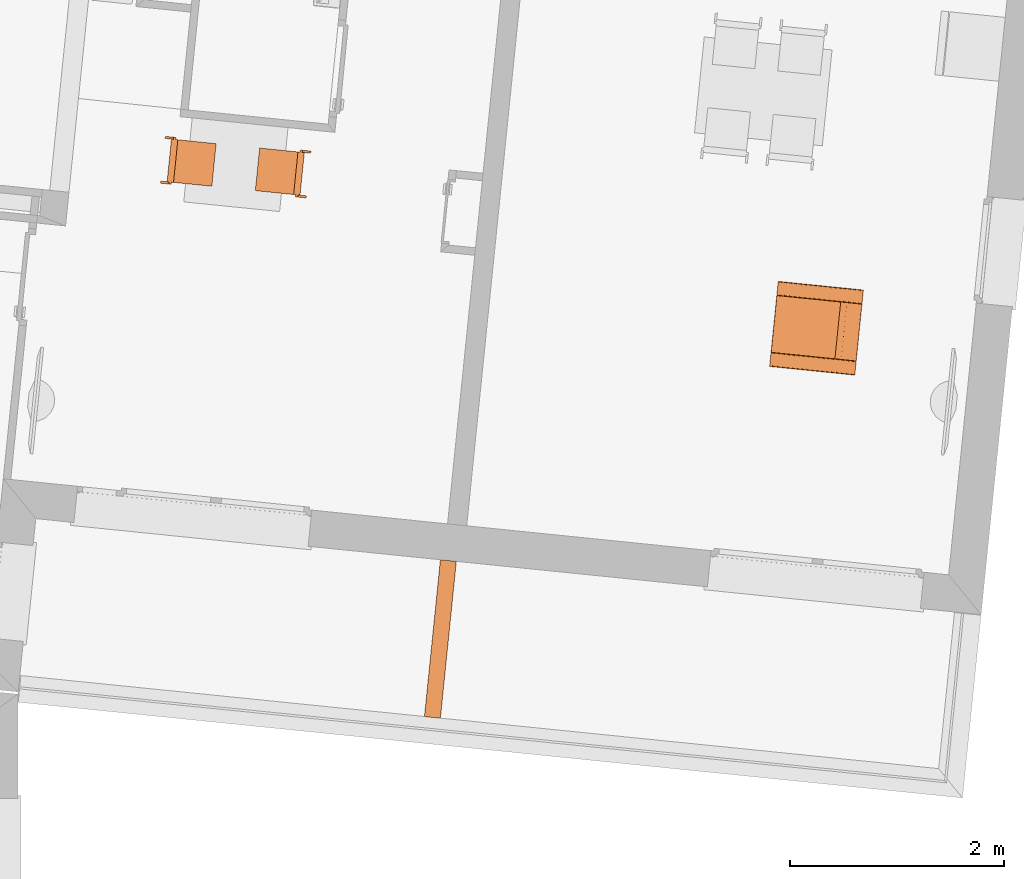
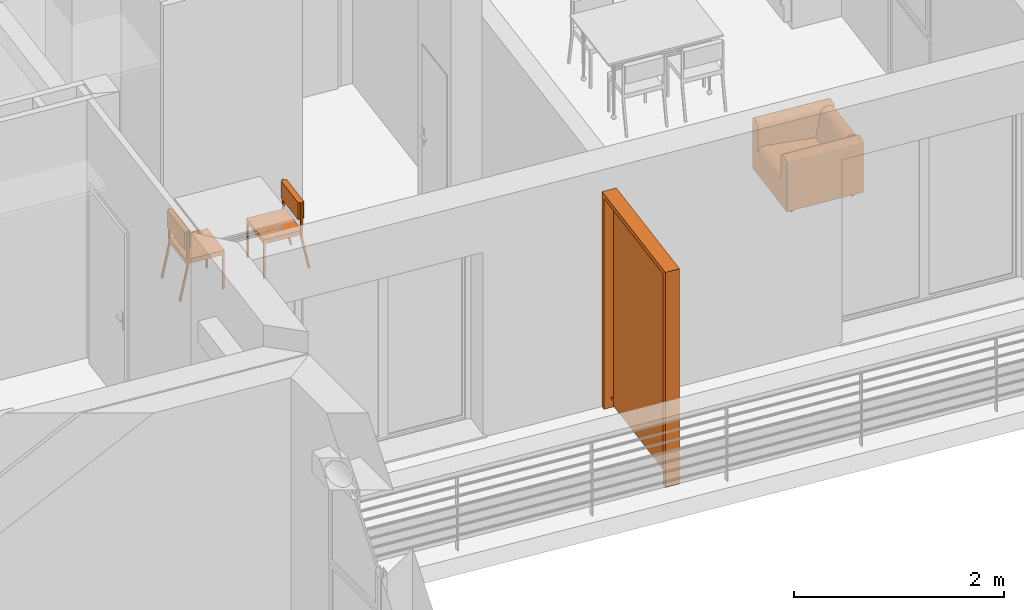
# One storey, part 155 of 164: 4 proxies.
"""IFC2X3 building model written with IfcOpenShell, lengths in millimetres."""

from ifc_helpers import new_model, entity, si_unit, converted_unit, derived_unit, money_unit, direction, frame, origin_with_axes, place, context, subcontext, project, spatial, open_shell, faceted_brep, surface_model, source, transform, mapped, type_object, element, save


model = new_model("IFC2X3")

# Units and contexts
model_context = context("Model", 3, precision=0.01, world=origin_with_axes(), true_north=direction((0.0, 1.0)))
body_context = subcontext(model_context, "Body", "Model", "MODEL_VIEW")
ifc_project = project(units=[si_unit("LENGTHUNIT", "METRE", prefix="MILLI"), si_unit("AREAUNIT", "SQUARE_METRE"), si_unit("VOLUMEUNIT", "CUBIC_METRE"), converted_unit("PLANEANGLEUNIT", "DEGREE", entity("IfcPlaneAngleMeasure", 0.0174532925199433), si_unit("PLANEANGLEUNIT", "RADIAN"), dimensions=[0, 0, 0, 0, 0, 0, 0]), money_unit("USD"), converted_unit("TIMEUNIT", "Year", entity("IfcTimeMeasure", 31557600.0), si_unit("TIMEUNIT", "SECOND"), dimensions=[0, 0, 1, 0, 0, 0, 0]), si_unit("MASSUNIT", "GRAM", prefix="KILO"), si_unit("THERMODYNAMICTEMPERATUREUNIT", "DEGREE_CELSIUS"), si_unit("LUMINOUSINTENSITYUNIT", "LUMEN"), si_unit("ENERGYUNIT", "JOULE", prefix="MEGA"), derived_unit("THERMALCONDUCTANCEUNIT", [(si_unit("POWERUNIT", "WATT"), 1), (si_unit("LENGTHUNIT", "METRE"), -1), (si_unit("THERMODYNAMICTEMPERATUREUNIT", "KELVIN"), -1)]), derived_unit("SPECIFICHEATCAPACITYUNIT", [(si_unit("ENERGYUNIT", "JOULE"), 1), (si_unit("MASSUNIT", "GRAM", prefix="KILO"), -1), (si_unit("THERMODYNAMICTEMPERATUREUNIT", "KELVIN"), -1)]), derived_unit("MASSDENSITYUNIT", [(si_unit("MASSUNIT", "GRAM", prefix="KILO"), 1), (si_unit("VOLUMEUNIT", "CUBIC_METRE"), -1)])], contexts=[model_context])

# Site, building, storey
site_placement = place(None, origin_with_axes())
site = spatial("IfcSite", under=ifc_project, at=site_placement, Name="Site", CompositionType="ELEMENT")
building_placement = place(site_placement, origin_with_axes())
building = spatial("IfcBuilding", under=site, at=building_placement, Name="Bâtiment", CompositionType="ELEMENT")
storey_placement = place(building_placement, frame((0.0, 0.0, 5750.0), z_axis=(0.0, 0.0, 1.0), x_axis=(1.0, 0.0, 0.0)))
storey = spatial("IfcBuildingStorey", under=building, at=storey_placement, Name="Etage1", CompositionType="ELEMENT", Elevation=5750.0)

# Proxies
building_element_proxy_type = type_object("IfcBuildingElementProxyType", PredefinedType="NOTDEFINED")
shared_shape_1 = source(origin_with_axes(), body_context, "Body", "Brep", [
    faceted_brep([(39.99999978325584, 0.0, 0.0), (19.99999989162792, 0.0, 0.0), (19.99999989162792, 19.99999936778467, 0.0), (39.99999978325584, 19.99999936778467, 0.0), (39.99999978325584, 0.0, 400.0), (19.99999989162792, 0.0, 400.0), (19.99999989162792, 19.99999936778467, 400.0), (39.99999978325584, 19.99999936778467, 400.0)], [[[0, 1, 2, 3]], [[1, 0, 4, 5]], [[2, 1, 5, 6]], [[3, 2, 6, 7]], [[0, 3, 7, 4]], [[5, 4, 7, 6]]]),
    faceted_brep([(419.9999977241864, 0.0, 0.0), (399.9999978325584, 0.0, 0.0), (399.9999978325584, 19.99999936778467, 0.0), (419.9999977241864, 19.99999936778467, 0.0), (419.9999977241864, 0.0, 400.0), (399.9999978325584, 0.0, 400.0), (399.9999978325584, 19.99999936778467, 400.0), (419.9999977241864, 19.99999936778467, 400.0)], [[[0, 1, 2, 3]], [[1, 0, 4, 5]], [[2, 1, 5, 6]], [[3, 2, 6, 7]], [[0, 3, 7, 4]], [[5, 4, 7, 6]]]),
    faceted_brep([(399.9999978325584, 0.0, 400.0000000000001), (39.99999978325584, 0.0, 400.0000000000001), (39.99999978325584, 19.99999936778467, 400.0000000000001), (399.9999978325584, 19.99999936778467, 400.0000000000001), (399.9999978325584, 0.0, 420.0000000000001), (39.99999978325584, 0.0, 420.0000000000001), (39.99999978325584, 19.99999936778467, 420.0000000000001), (399.9999978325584, 19.99999936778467, 420.0000000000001)], [[[0, 1, 2, 3]], [[1, 0, 4, 5]], [[2, 1, 5, 6]], [[3, 2, 6, 7]], [[0, 3, 7, 4]], [[5, 4, 7, 6]]]),
    faceted_brep([(39.99999978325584, 19.99999936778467, 400.0000000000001), (19.99999989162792, 19.99999936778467, 400.0000000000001), (19.99999989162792, 379.9999879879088, 400.0000000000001), (39.99999978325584, 379.9999879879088, 400.0000000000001), (39.99999978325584, 19.99999936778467, 420.0000000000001), (19.99999989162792, 19.99999936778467, 420.0000000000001), (19.99999989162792, 379.9999879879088, 420.0000000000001), (39.99999978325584, 379.9999879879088, 420.0000000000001)], [[[0, 1, 2, 3]], [[1, 0, 4, 5]], [[2, 1, 5, 6]], [[3, 2, 6, 7]], [[0, 3, 7, 4]], [[5, 4, 7, 6]]]),
    faceted_brep([(419.9999977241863, 379.9999879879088, 400.0000000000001), (19.99999989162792, 379.9999879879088, 400.0000000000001), (19.99999989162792, 399.9999873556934, 400.0000000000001), (419.9999977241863, 399.9999873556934, 400.0000000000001), (419.9999977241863, 379.9999879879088, 420.0000000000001), (19.99999989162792, 379.9999879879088, 420.0000000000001), (19.99999989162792, 399.9999873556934, 420.0000000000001), (419.9999977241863, 399.9999873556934, 420.0000000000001)], [[[0, 1, 2, 3]], [[1, 0, 4, 5]], [[2, 1, 5, 6]], [[3, 2, 6, 7]], [[0, 3, 7, 4]], [[5, 4, 7, 6]]]),
    faceted_brep([(419.9999977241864, 19.99999936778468, 400.0000000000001), (399.9999978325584, 19.99999936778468, 400.0000000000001), (399.9999978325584, 379.9999879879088, 400.0000000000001), (419.9999977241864, 379.9999879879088, 400.0000000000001), (419.9999977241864, 19.99999936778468, 420.0000000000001), (399.9999978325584, 19.99999936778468, 420.0000000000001), (399.9999978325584, 379.9999879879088, 420.0000000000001), (419.9999977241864, 379.9999879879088, 420.0000000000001)], [[[0, 1, 2, 3]], [[1, 0, 4, 5]], [[2, 1, 5, 6]], [[3, 2, 6, 7]], [[0, 3, 7, 4]], [[5, 4, 7, 6]]]),
    faceted_brep([(419.9999977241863, 0.0, 400.0), (19.99999989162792, 0.0, 400.0), (19.99999989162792, 399.9999873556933, 400.0), (419.9999977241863, 399.9999873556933, 400.0), (419.9999977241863, 0.0, 450.0), (19.99999989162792, 0.0, 450.0), (19.99999989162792, 399.9999873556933, 450.0), (419.9999977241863, 399.9999873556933, 450.0)], [[[0, 1, 2, 3]], [[1, 0, 4, 5]], [[2, 1, 5, 6]], [[3, 2, 6, 7]], [[0, 3, 7, 4]], [[5, 4, 7, 6]]]),
    faceted_brep([(19.99999989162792, 379.9999879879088, 380.0), (0.0, 379.9999879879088, 380.0), (0.0, 399.9999873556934, 380.0), (19.99999989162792, 399.9999873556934, 380.0), (19.99999989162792, 379.9999879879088, 780.0), (0.0, 379.9999879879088, 780.0), (0.0, 399.9999873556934, 780.0), (19.99999989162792, 399.9999873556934, 780.0)], [[[0, 1, 2, 3]], [[1, 0, 4, 5]], [[2, 1, 5, 6]], [[3, 2, 6, 7]], [[0, 3, 7, 4]], [[5, 4, 7, 6]]]),
    faceted_brep([(439.9999976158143, 379.9999879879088, 380.0), (419.9999977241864, 379.9999879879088, 380.0), (419.9999977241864, 399.9999873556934, 380.0), (439.9999976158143, 399.9999873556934, 380.0), (439.9999976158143, 379.9999879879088, 780.0), (419.9999977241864, 379.9999879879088, 780.0), (419.9999977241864, 399.9999873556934, 780.0), (439.9999976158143, 399.9999873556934, 780.0)], [[[0, 1, 2, 3]], [[1, 0, 4, 5]], [[2, 1, 5, 6]], [[3, 2, 6, 7]], [[0, 3, 7, 4]], [[5, 4, 7, 6]]]),
    faceted_brep([(419.9999977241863, 359.999988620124, 580.0000000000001), (19.99999989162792, 359.999988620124, 580.0000000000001), (19.99999989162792, 419.9999867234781, 580.0000000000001), (419.9999977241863, 419.9999867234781, 580.0000000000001), (419.9999977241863, 359.999988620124, 780.0), (19.99999989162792, 359.999988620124, 780.0), (19.99999989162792, 419.9999867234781, 780.0), (419.9999977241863, 419.9999867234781, 780.0)], [[[0, 1, 2, 3]], [[1, 0, 4, 5]], [[2, 1, 5, 6]], [[3, 2, 6, 7]], [[0, 3, 7, 4]], [[5, 4, 7, 6]]]),
    faceted_brep([(19.99999989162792, 459.9999854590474, 0.0), (0.0, 459.9999854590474, 0.0), (0.0, 479.5709559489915, 4.120326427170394), (19.99999989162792, 479.5709559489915, 4.120326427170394), (19.99999989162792, 379.997669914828, 379.999760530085), (0.0, 379.997669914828, 379.999760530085), (0.0, 399.5686404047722, 384.1200869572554), (19.99999989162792, 399.5686404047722, 384.1200869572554)], [[[0, 1, 2, 3]], [[1, 0, 4, 5]], [[2, 1, 5, 6]], [[3, 2, 6, 7]], [[0, 3, 7, 4]], [[5, 4, 7, 6]]]),
    faceted_brep([(439.9999976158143, 459.9999854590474, 0.0), (419.9999977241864, 459.9999854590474, 0.0), (419.9999977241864, 479.5709559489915, 4.120326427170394), (439.9999976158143, 479.5709559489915, 4.120326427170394), (439.9999976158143, 379.997669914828, 379.999760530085), (419.9999977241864, 379.997669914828, 379.999760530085), (419.9999977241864, 399.5686404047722, 384.1200869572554), (439.9999976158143, 399.5686404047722, 384.1200869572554)], [[[0, 1, 2, 3]], [[1, 0, 4, 5]], [[2, 1, 5, 6]], [[3, 2, 6, 7]], [[0, 3, 7, 4]], [[5, 4, 7, 6]]]),
])
proxy_1_placement = place(storey_placement, frame((2231913.469310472, -616910.3876620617, 0.0), z_axis=(0.0, 0.0, 1.0), x_axis=(-0.100595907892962, -0.9949273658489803, 0.0)))
element("IfcBuildingElementProxy", 1, at=proxy_1_placement, inside=storey, type_object=building_element_proxy_type, Name="Obj.-027", context=body_context, shape_type="MappedRepresentation", body=[
    mapped(shared_shape_1, transform((0.0, 0.0, 0.0))),
])
shared_shape_2 = source(origin_with_axes(), body_context, "Body", "Brep", [
    faceted_brep([(-39.99999978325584, 0.0, 0.0), (-39.99999978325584, 19.99999936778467, 0.0), (-19.99999989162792, 19.99999936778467, 0.0), (-19.99999989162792, 0.0, 0.0), (-39.99999978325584, 0.0, 400.0), (-39.99999978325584, 19.99999936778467, 400.0), (-19.99999989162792, 19.99999936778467, 400.0), (-19.99999989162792, 0.0, 400.0)], [[[0, 1, 2, 3]], [[0, 4, 5, 1]], [[1, 5, 6, 2]], [[2, 6, 7, 3]], [[3, 7, 4, 0]], [[7, 6, 5, 4]]]),
    faceted_brep([(-419.9999977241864, 0.0, 0.0), (-419.9999977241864, 19.99999936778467, 0.0), (-399.9999978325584, 19.99999936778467, 0.0), (-399.9999978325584, 0.0, 0.0), (-419.9999977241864, 0.0, 400.0), (-419.9999977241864, 19.99999936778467, 400.0), (-399.9999978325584, 19.99999936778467, 400.0), (-399.9999978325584, 0.0, 400.0)], [[[0, 1, 2, 3]], [[0, 4, 5, 1]], [[1, 5, 6, 2]], [[2, 6, 7, 3]], [[3, 7, 4, 0]], [[7, 6, 5, 4]]]),
    faceted_brep([(-399.9999978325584, 0.0, 400.0000000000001), (-399.9999978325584, 19.99999936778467, 400.0000000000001), (-39.99999978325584, 19.99999936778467, 400.0000000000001), (-39.99999978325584, 0.0, 400.0000000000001), (-399.9999978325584, 0.0, 420.0000000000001), (-399.9999978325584, 19.99999936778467, 420.0000000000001), (-39.99999978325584, 19.99999936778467, 420.0000000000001), (-39.99999978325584, 0.0, 420.0000000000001)], [[[0, 1, 2, 3]], [[0, 4, 5, 1]], [[1, 5, 6, 2]], [[2, 6, 7, 3]], [[3, 7, 4, 0]], [[7, 6, 5, 4]]]),
    faceted_brep([(-39.99999978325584, 19.99999936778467, 400.0000000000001), (-39.99999978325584, 379.9999879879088, 400.0000000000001), (-19.99999989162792, 379.9999879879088, 400.0000000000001), (-19.99999989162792, 19.99999936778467, 400.0000000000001), (-39.99999978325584, 19.99999936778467, 420.0000000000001), (-39.99999978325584, 379.9999879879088, 420.0000000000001), (-19.99999989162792, 379.9999879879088, 420.0000000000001), (-19.99999989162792, 19.99999936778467, 420.0000000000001)], [[[0, 1, 2, 3]], [[0, 4, 5, 1]], [[1, 5, 6, 2]], [[2, 6, 7, 3]], [[3, 7, 4, 0]], [[7, 6, 5, 4]]]),
    faceted_brep([(-419.9999977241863, 379.9999879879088, 400.0000000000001), (-419.9999977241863, 399.9999873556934, 400.0000000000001), (-19.99999989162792, 399.9999873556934, 400.0000000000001), (-19.99999989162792, 379.9999879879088, 400.0000000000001), (-419.9999977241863, 379.9999879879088, 420.0000000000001), (-419.9999977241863, 399.9999873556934, 420.0000000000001), (-19.99999989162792, 399.9999873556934, 420.0000000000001), (-19.99999989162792, 379.9999879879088, 420.0000000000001)], [[[0, 1, 2, 3]], [[0, 4, 5, 1]], [[1, 5, 6, 2]], [[2, 6, 7, 3]], [[3, 7, 4, 0]], [[7, 6, 5, 4]]]),
    faceted_brep([(-419.9999977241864, 19.99999936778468, 400.0000000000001), (-419.9999977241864, 379.9999879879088, 400.0000000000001), (-399.9999978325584, 379.9999879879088, 400.0000000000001), (-399.9999978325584, 19.99999936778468, 400.0000000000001), (-419.9999977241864, 19.99999936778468, 420.0000000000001), (-419.9999977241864, 379.9999879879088, 420.0000000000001), (-399.9999978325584, 379.9999879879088, 420.0000000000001), (-399.9999978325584, 19.99999936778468, 420.0000000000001)], [[[0, 1, 2, 3]], [[0, 4, 5, 1]], [[1, 5, 6, 2]], [[2, 6, 7, 3]], [[3, 7, 4, 0]], [[7, 6, 5, 4]]]),
    faceted_brep([(-419.9999977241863, 0.0, 400.0), (-419.9999977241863, 399.9999873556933, 400.0), (-19.99999989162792, 399.9999873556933, 400.0), (-19.99999989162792, 0.0, 400.0), (-419.9999977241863, 0.0, 450.0), (-419.9999977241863, 399.9999873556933, 450.0), (-19.99999989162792, 399.9999873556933, 450.0), (-19.99999989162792, 0.0, 450.0)], [[[0, 1, 2, 3]], [[0, 4, 5, 1]], [[1, 5, 6, 2]], [[2, 6, 7, 3]], [[3, 7, 4, 0]], [[7, 6, 5, 4]]]),
    faceted_brep([(-19.99999989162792, 379.9999879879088, 380.0), (-19.99999989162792, 399.9999873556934, 380.0), (0.0, 399.9999873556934, 380.0), (0.0, 379.9999879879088, 380.0), (-19.99999989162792, 379.9999879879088, 780.0), (-19.99999989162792, 399.9999873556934, 780.0), (0.0, 399.9999873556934, 780.0), (0.0, 379.9999879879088, 780.0)], [[[0, 1, 2, 3]], [[0, 4, 5, 1]], [[1, 5, 6, 2]], [[2, 6, 7, 3]], [[3, 7, 4, 0]], [[7, 6, 5, 4]]]),
    faceted_brep([(-439.9999976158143, 379.9999879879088, 380.0), (-439.9999976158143, 399.9999873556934, 380.0), (-419.9999977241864, 399.9999873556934, 380.0), (-419.9999977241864, 379.9999879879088, 380.0), (-439.9999976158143, 379.9999879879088, 780.0), (-439.9999976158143, 399.9999873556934, 780.0), (-419.9999977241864, 399.9999873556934, 780.0), (-419.9999977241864, 379.9999879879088, 780.0)], [[[0, 1, 2, 3]], [[0, 4, 5, 1]], [[1, 5, 6, 2]], [[2, 6, 7, 3]], [[3, 7, 4, 0]], [[7, 6, 5, 4]]]),
    faceted_brep([(-419.9999977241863, 359.999988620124, 580.0000000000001), (-419.9999977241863, 419.9999867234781, 580.0000000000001), (-19.99999989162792, 419.9999867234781, 580.0000000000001), (-19.99999989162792, 359.999988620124, 580.0000000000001), (-419.9999977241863, 359.999988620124, 780.0), (-419.9999977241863, 419.9999867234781, 780.0), (-19.99999989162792, 419.9999867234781, 780.0), (-19.99999989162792, 359.999988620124, 780.0)], [[[0, 1, 2, 3]], [[0, 4, 5, 1]], [[1, 5, 6, 2]], [[2, 6, 7, 3]], [[3, 7, 4, 0]], [[7, 6, 5, 4]]]),
    faceted_brep([(-19.99999989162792, 459.9999854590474, 0.0), (-19.99999989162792, 479.5709559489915, 4.120326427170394), (0.0, 479.5709559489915, 4.120326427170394), (0.0, 459.9999854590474, 0.0), (-19.99999989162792, 379.997669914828, 379.999760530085), (-19.99999989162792, 399.5686404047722, 384.1200869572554), (0.0, 399.5686404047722, 384.1200869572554), (0.0, 379.997669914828, 379.999760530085)], [[[0, 1, 2, 3]], [[0, 4, 5, 1]], [[1, 5, 6, 2]], [[2, 6, 7, 3]], [[3, 7, 4, 0]], [[7, 6, 5, 4]]]),
    faceted_brep([(-439.9999976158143, 459.9999854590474, 0.0), (-439.9999976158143, 479.5709559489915, 4.120326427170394), (-419.9999977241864, 479.5709559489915, 4.120326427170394), (-419.9999977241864, 459.9999854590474, 0.0), (-439.9999976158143, 379.997669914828, 379.999760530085), (-439.9999976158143, 399.5686404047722, 384.1200869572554), (-419.9999977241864, 399.5686404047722, 384.1200869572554), (-419.9999977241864, 379.997669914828, 379.999760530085)], [[[0, 1, 2, 3]], [[0, 4, 5, 1]], [[1, 5, 6, 2]], [[2, 6, 7, 3]], [[3, 7, 4, 0]], [[7, 6, 5, 4]]]),
])
proxy_2_placement = place(storey_placement, frame((2231507.481852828, -616869.3387591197, 0.0), z_axis=(0.0, 0.0, 1.0), x_axis=(0.1005959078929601, 0.9949273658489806, 0.0)))
element("IfcBuildingElementProxy", 2, at=proxy_2_placement, inside=storey, type_object=building_element_proxy_type, Name="Obj.-027", context=body_context, shape_type="MappedRepresentation", body=[
    mapped(shared_shape_2, transform((0.0, 0.0, 0.0))),
])
shared_shape_3 = source(origin_with_axes(), body_context, "Body", "SurfaceModel", [
    faceted_brep([(1473.383622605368, 0.0, 2449.999999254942), (0.0, 0.0, 2449.999999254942), (0.0, 149.7310623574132, 2449.999999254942), (1473.383622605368, 149.7310623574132, 2449.999999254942), (1473.383622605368, 0.0, 2500.0), (0.0, 0.0, 2500.0), (0.0, 149.7310623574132, 2500.0), (1473.383622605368, 149.7310623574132, 2500.0)], [[[0, 1, 2, 3]], [[1, 0, 4, 5]], [[2, 1, 5, 6]], [[3, 2, 6, 7]], [[0, 3, 7, 4]], [[5, 4, 7, 6]]]),
    faceted_brep([(50.00000074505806, 0.0, 0.0), (0.0, 0.0, 0.0), (0.0, 149.7310623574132, 0.0), (50.00000074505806, 149.7310623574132, 0.0), (50.00000074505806, 0.0, 2449.999999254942), (0.0, 0.0, 2449.999999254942), (0.0, 149.7310623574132, 2449.999999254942), (50.00000074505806, 149.7310623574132, 2449.999999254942)], [[[0, 1, 2, 3]], [[1, 0, 4, 5]], [[2, 1, 5, 6]], [[3, 2, 6, 7]], [[0, 3, 7, 4]], [[5, 4, 7, 6]]]),
    faceted_brep([(1473.383622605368, 0.0, 0.0), (1423.38362186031, 0.0, 0.0), (1423.38362186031, 149.7310623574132, 0.0), (1473.383622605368, 149.7310623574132, 0.0), (1473.383622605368, 0.0, 2449.999999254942), (1423.38362186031, 0.0, 2449.999999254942), (1423.38362186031, 149.7310623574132, 2449.999999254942), (1473.383622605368, 149.7310623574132, 2449.999999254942)], [[[0, 1, 2, 3]], [[1, 0, 4, 5]], [[2, 1, 5, 6]], [[3, 2, 6, 7]], [[0, 3, 7, 4]], [[5, 4, 7, 6]]]),
    surface_model("IfcShellBasedSurfaceModel", [(100.0000007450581, 74.8655311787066, 50.0), (1373.38362186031, 74.8655311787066, 50.0), (1373.38362186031, 74.86553117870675, 2399.999999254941), (100.0000007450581, 74.86553117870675, 2399.999999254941)], [open_shell([[[0, 1, 2, 3]]])]),
    surface_model("IfcShellBasedSurfaceModel", [(50.00000074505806, 74.8655311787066, 100.0), (120.0000007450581, 74.8655311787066, 100.0), (120.0000007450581, 74.8655311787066, 130.0), (50.00000074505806, 74.8655311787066, 130.0)], [open_shell([[[0, 1, 2, 3]]])]),
    surface_model("IfcShellBasedSurfaceModel", [(50.00000074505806, 74.86553117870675, 2329.999999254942), (120.0000007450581, 74.86553117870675, 2329.999999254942), (120.0000007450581, 74.86553117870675, 2359.999999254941), (50.00000074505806, 74.86553117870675, 2359.999999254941)], [open_shell([[[0, 1, 2, 3]]])]),
    surface_model("IfcShellBasedSurfaceModel", [(1353.38362186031, 74.86553117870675, 2329.999999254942), (1423.38362186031, 74.86553117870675, 2329.999999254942), (1423.38362186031, 74.86553117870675, 2359.999999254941), (1353.38362186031, 74.86553117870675, 2359.999999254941)], [open_shell([[[0, 1, 2, 3]]])]),
    surface_model("IfcShellBasedSurfaceModel", [(1353.38362186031, 74.8655311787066, 99.99999999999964), (1423.38362186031, 74.8655311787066, 99.99999999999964), (1423.38362186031, 74.8655311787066, 129.9999999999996), (1353.38362186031, 74.8655311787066, 129.9999999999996)], [open_shell([[[0, 1, 2, 3]]])]),
])
proxy_3_placement = place(storey_placement, frame((2233600.57975248, -622257.7460872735, 0.0), z_axis=(0.0, 0.0, 1.0), x_axis=(0.1011032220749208, 0.9948759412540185, 0.0)))
element("IfcBuildingElementProxy", 3, at=proxy_3_placement, inside=storey, type_object=building_element_proxy_type, Name="Obj.-034", context=body_context, shape_type="MappedRepresentation", body=[
    mapped(shared_shape_3, transform((0.0, 0.0, 0.0))),
])
shared_shape_4 = source(origin_with_axes(), body_context, "Body", "Brep", [
    faceted_brep([(-333.3000000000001, 66.7, 0.0), (-333.3000000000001, 100.0, 0.0), (-300.0000000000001, 100.0, 0.0), (-300.0000000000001, 66.7, 0.0), (-333.3000000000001, 66.7, 66.69999999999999), (-333.3000000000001, 100.0, 66.69999999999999), (-300.0000000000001, 100.0, 66.69999999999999), (-300.0000000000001, 66.7, 66.69999999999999)], [[[0, 1, 2, 3]], [[0, 4, 5, 1]], [[1, 5, 6, 2]], [[2, 6, 7, 3]], [[3, 7, 4, 0]], [[7, 6, 5, 4]]]),
    faceted_brep([(-333.3000000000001, 700.0000000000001, 0.0), (-333.3000000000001, 733.3000000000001, 0.0), (-300.0000000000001, 733.3000000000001, 0.0), (-300.0000000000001, 700.0000000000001, 0.0), (-333.3000000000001, 700.0000000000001, 66.69999999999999), (-333.3000000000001, 733.3000000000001, 66.69999999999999), (-300.0000000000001, 733.3000000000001, 66.69999999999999), (-300.0000000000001, 700.0000000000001, 66.69999999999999)], [[[0, 1, 2, 3]], [[0, 4, 5, 1]], [[1, 5, 6, 2]], [[2, 6, 7, 3]], [[3, 7, 4, 0]], [[7, 6, 5, 4]]]),
    faceted_brep([(300.0000000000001, 66.7, 0.0), (300.0000000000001, 100.0, 0.0), (333.3000000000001, 100.0, 0.0), (333.3000000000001, 66.7, 0.0), (300.0000000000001, 66.7, 66.69999999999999), (300.0000000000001, 100.0, 66.69999999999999), (333.3000000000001, 100.0, 66.69999999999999), (333.3000000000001, 66.7, 66.69999999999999)], [[[0, 1, 2, 3]], [[0, 4, 5, 1]], [[1, 5, 6, 2]], [[2, 6, 7, 3]], [[3, 7, 4, 0]], [[7, 6, 5, 4]]]),
    faceted_brep([(300.0000000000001, 700.0000000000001, 0.0), (300.0000000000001, 733.3000000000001, 0.0), (333.3000000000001, 733.3000000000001, 0.0), (333.3000000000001, 700.0000000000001, 0.0), (300.0000000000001, 700.0000000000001, 66.69999999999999), (300.0000000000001, 733.3000000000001, 66.69999999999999), (333.3000000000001, 733.3000000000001, 66.69999999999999), (333.3000000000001, 700.0000000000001, 66.69999999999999)], [[[0, 1, 2, 3]], [[0, 4, 5, 1]], [[1, 5, 6, 2]], [[2, 6, 7, 3]], [[3, 7, 4, 0]], [[7, 6, 5, 4]]]),
    faceted_brep([(-266.7, 800.0, 66.69999999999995), (-266.7, 0.0, 66.69999999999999), (-400.033, 0.0, 66.69999999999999), (-400.033, 800.0, 66.69999999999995), (-266.7, 800.0, 67.19999999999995), (-266.7, 0.0, 67.19999999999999), (-266.7, 0.0, 633.37), (-266.7, 0.0, 636.2859999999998), (-267.713, 0.0, 642.029), (-269.707, 0.0, 647.5099999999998), (-272.623, 0.0, 652.5599999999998), (-276.372, 0.0, 657.0279999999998), (-280.84, 0.0, 660.7769999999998), (-285.89, 0.0, 663.6929999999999), (-291.371, 0.0, 665.6869999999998), (-297.114, 0.0, 666.6999999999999), (-300.03, 0.0, 666.6999999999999), (-366.703, 0.0, 666.6999999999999), (-369.619, 0.0, 666.6999999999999), (-375.363, 0.0, 665.6869999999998), (-380.843, 0.0, 663.6929999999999), (-385.894, 0.0, 660.7769999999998), (-390.361, 0.0, 657.0279999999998), (-394.11, 0.0, 652.5599999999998), (-397.026, 0.0, 647.5099999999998), (-399.021, 0.0, 642.029), (-400.033, 0.0, 636.2859999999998), (-400.033, 0.0, 633.37), (-400.033, 800.0, 633.37), (-400.033, 800.0, 636.2859999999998), (-399.021, 800.0, 642.029), (-397.026, 800.0, 647.5099999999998), (-394.11, 800.0, 652.5599999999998), (-390.361, 800.0, 657.0279999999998), (-385.894, 800.0, 660.7769999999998), (-380.843, 800.0, 663.6929999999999), (-375.363, 800.0, 665.6869999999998), (-369.619, 800.0, 666.6999999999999), (-366.703, 800.0, 666.6999999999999), (-300.03, 800.0, 666.6999999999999), (-297.114, 800.0, 666.6999999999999), (-291.371, 800.0, 665.6869999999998), (-285.89, 800.0, 663.6929999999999), (-280.84, 800.0, 660.7769999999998), (-276.372, 800.0, 657.0279999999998), (-272.623, 800.0, 652.5599999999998), (-269.707, 800.0, 647.5099999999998), (-267.713, 800.0, 642.029), (-266.7, 800.0, 636.2859999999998), (-266.7, 800.0, 633.37)], [[[0, 1, 2, 3]], [[4, 5, 1, 0]], [[1, 5, 6, 7, 8, 9, 10, 11, 12, 13, 14, 15, 16, 17, 18, 19, 20, 21, 22, 23, 24, 25, 26, 27, 2]], [[3, 2, 27, 28]], [[0, 3, 28, 29, 30, 31, 32, 33, 34, 35, 36, 37, 38, 39, 40, 41, 42, 43, 44, 45, 46, 47, 48, 49, 4]], [[49, 6, 5, 4]], [[48, 7, 6, 49]], [[47, 8, 7, 48]], [[46, 9, 8, 47]], [[45, 10, 9, 46]], [[44, 11, 10, 45]], [[43, 12, 11, 44]], [[42, 13, 12, 43]], [[41, 14, 13, 42]], [[40, 15, 14, 41]], [[39, 16, 15, 40]], [[38, 17, 16, 39]], [[37, 18, 17, 38]], [[36, 19, 18, 37]], [[35, 20, 19, 36]], [[34, 21, 20, 35]], [[33, 22, 21, 34]], [[32, 23, 22, 33]], [[31, 24, 23, 32]], [[30, 25, 24, 31]], [[29, 26, 25, 30]], [[28, 27, 26, 29]]]),
    faceted_brep([(400.0, 800.0, 66.69999999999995), (400.0, 0.0, 66.69999999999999), (266.667, 0.0, 66.69999999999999), (266.667, 800.0, 66.69999999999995), (400.0, 800.0, 67.19999999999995), (400.0, 0.0, 67.19999999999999), (400.0, 0.0, 633.37), (400.0, 0.0, 636.2859999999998), (398.987, 0.0, 642.029), (396.9930000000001, 0.0, 647.5099999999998), (394.077, 0.0, 652.5599999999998), (390.328, 0.0, 657.0279999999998), (385.86, 0.0, 660.7769999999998), (380.8100000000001, 0.0, 663.6929999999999), (375.329, 0.0, 665.6869999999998), (369.586, 0.0, 666.6999999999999), (366.67, 0.0, 666.6999999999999), (299.997, 0.0, 666.6999999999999), (297.081, 0.0, 666.6999999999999), (291.337, 0.0, 665.6869999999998), (285.857, 0.0, 663.6929999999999), (280.806, 0.0, 660.7769999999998), (276.339, 0.0, 657.0279999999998), (272.59, 0.0, 652.5599999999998), (269.674, 0.0, 647.5099999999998), (267.679, 0.0, 642.029), (266.667, 0.0, 636.2859999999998), (266.667, 0.0, 633.37), (266.667, 800.0, 633.37), (266.667, 800.0, 636.2859999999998), (267.679, 800.0, 642.029), (269.674, 800.0, 647.5099999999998), (272.59, 800.0, 652.5599999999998), (276.339, 800.0, 657.0279999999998), (280.806, 800.0, 660.7769999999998), (285.857, 800.0, 663.6929999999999), (291.337, 800.0, 665.6869999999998), (297.081, 800.0, 666.6999999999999), (299.997, 800.0, 666.6999999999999), (366.67, 800.0, 666.6999999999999), (369.586, 800.0, 666.6999999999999), (375.329, 800.0, 665.6869999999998), (380.8100000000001, 800.0, 663.6929999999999), (385.86, 800.0, 660.7769999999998), (390.328, 800.0, 657.0279999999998), (394.077, 800.0, 652.5599999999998), (396.9930000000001, 800.0, 647.5099999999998), (398.987, 800.0, 642.029), (400.0, 800.0, 636.2859999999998), (400.0, 800.0, 633.37)], [[[0, 1, 2, 3]], [[4, 5, 1, 0]], [[1, 5, 6, 7, 8, 9, 10, 11, 12, 13, 14, 15, 16, 17, 18, 19, 20, 21, 22, 23, 24, 25, 26, 27, 2]], [[3, 2, 27, 28]], [[0, 3, 28, 29, 30, 31, 32, 33, 34, 35, 36, 37, 38, 39, 40, 41, 42, 43, 44, 45, 46, 47, 48, 49, 4]], [[49, 6, 5, 4]], [[48, 7, 6, 49]], [[47, 8, 7, 48]], [[46, 9, 8, 47]], [[45, 10, 9, 46]], [[44, 11, 10, 45]], [[43, 12, 11, 44]], [[42, 13, 12, 43]], [[41, 14, 13, 42]], [[40, 15, 14, 41]], [[39, 16, 15, 40]], [[38, 17, 16, 39]], [[37, 18, 17, 38]], [[36, 19, 18, 37]], [[35, 20, 19, 36]], [[34, 21, 20, 35]], [[33, 22, 21, 34]], [[32, 23, 22, 33]], [[31, 24, 23, 32]], [[30, 25, 24, 31]], [[29, 26, 25, 30]], [[28, 27, 26, 29]]]),
    faceted_brep([(266.6667, 0.0, 66.69999999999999), (-266.6333, 0.0, 66.69999999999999), (-266.6333, 800.0, 66.69999999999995), (266.6667, 800.0, 66.69999999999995), (266.6667, 0.0, 67.2), (-266.6333, 0.0, 67.2), (-266.6333, 0.0, 325.5449999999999), (-266.6333, -0.2359999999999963, 327.1109999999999), (-266.6333, 1.052000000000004, 338.7049999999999), (-266.6333, 4.334000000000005, 349.8989999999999), (-266.6333, 9.510000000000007, 360.3539999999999), (-266.6333, 16.42300000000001, 369.7509999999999), (-266.6333, 24.86200000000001, 377.8049999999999), (-266.6333, 34.57200000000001, 384.271), (-266.6333, 45.25800000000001, 388.9519999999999), (-266.6333, 56.59300000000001, 391.707), (-266.6333, 68.23500000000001, 392.4519999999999), (-266.6333, 74.03200000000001, 391.808), (-266.6333, 600.0000000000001, 333.3669999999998), (-266.6333, 600.0980000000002, 333.8569999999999), (-266.6333, 655.9480000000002, 613.1049999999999), (-266.6333, 656.6790000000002, 617.351), (-266.6333, 660.6690000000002, 628.314), (-266.6333, 666.5020000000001, 638.4159999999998), (-266.6333, 674.0000000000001, 647.3529999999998), (-266.6333, 682.937, 654.8509999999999), (-266.6333, 693.0390000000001, 660.6839999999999), (-266.6333, 704.0020000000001, 664.6739999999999), (-266.6333, 715.4900000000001, 666.6999999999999), (-266.6333, 721.3230000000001, 666.6999999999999), (-266.6333, 733.33, 666.6999999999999), (-266.6333, 739.163, 666.6999999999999), (-266.6333, 750.6510000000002, 664.6739999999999), (-266.6333, 761.614, 660.6839999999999), (-266.6333, 771.716, 654.8509999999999), (-266.6333, 780.653, 647.3529999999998), (-266.6333, 788.1510000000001, 638.4159999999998), (-266.6333, 793.984, 628.314), (-266.6333, 797.974, 617.351), (-266.6333, 800.0, 605.8629999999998), (-266.6333, 800.0, 600.0299999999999), (266.6667, 800.0, 600.0299999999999), (266.6667, 800.0, 605.8629999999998), (266.6667, 797.974, 617.351), (266.6667, 793.984, 628.314), (266.6667, 788.1510000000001, 638.4159999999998), (266.6667, 780.653, 647.3529999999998), (266.6667, 771.716, 654.8509999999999), (266.6667, 761.614, 660.6839999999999), (266.6667, 750.6510000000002, 664.6739999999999), (266.6667, 739.163, 666.6999999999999), (266.6667, 733.33, 666.6999999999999), (266.6667, 721.3230000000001, 666.6999999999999), (266.6667, 715.4900000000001, 666.6999999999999), (266.6667, 704.0020000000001, 664.6739999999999), (266.6667, 693.0390000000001, 660.6839999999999), (266.6667, 682.937, 654.8509999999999), (266.6667, 674.0000000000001, 647.3529999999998), (266.6667, 666.5020000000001, 638.4159999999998), (266.6667, 660.6690000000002, 628.314), (266.6667, 656.6790000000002, 617.351), (266.6667, 655.9480000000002, 613.1049999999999), (266.6667, 600.0980000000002, 333.8569999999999), (266.6667, 600.0000000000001, 333.3669999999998), (266.6667, 74.03200000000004, 391.808), (266.6667, 68.23500000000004, 392.4519999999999), (266.6667, 56.59300000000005, 391.707), (266.6667, 45.25800000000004, 388.9519999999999), (266.6667, 34.57200000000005, 384.271), (266.6667, 24.86200000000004, 377.8049999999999), (266.6667, 16.42300000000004, 369.7509999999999), (266.6667, 9.510000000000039, 360.3539999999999), (266.6667, 4.334000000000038, 349.8989999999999), (266.6667, 1.052000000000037, 338.7049999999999), (266.6667, -0.2359999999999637, 327.1109999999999), (266.6667, 0.0, 325.5449999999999)], [[[0, 1, 2, 3]], [[4, 5, 1, 0]], [[1, 5, 6, 7, 8, 9, 10, 11, 12, 13, 14, 15, 16, 17, 18, 19, 20, 21, 22, 23, 24, 25, 26, 27, 28, 29, 30, 31, 32, 33, 34, 35, 36, 37, 38, 39, 40, 2]], [[3, 2, 40, 41]], [[0, 3, 41, 42, 43, 44, 45, 46, 47, 48, 49, 50, 51, 52, 53, 54, 55, 56, 57, 58, 59, 60, 61, 62, 63, 64, 65, 66, 67, 68, 69, 70, 71, 72, 73, 74, 75, 4]], [[75, 6, 5, 4]], [[74, 7, 6, 75]], [[73, 8, 7, 74]], [[72, 9, 8, 73]], [[71, 10, 9, 72]], [[70, 11, 10, 71]], [[69, 12, 11, 70]], [[68, 13, 12, 69]], [[67, 14, 13, 68]], [[66, 15, 14, 67]], [[65, 16, 15, 66]], [[64, 17, 16, 65]], [[63, 18, 17, 64]], [[62, 19, 18, 63]], [[61, 20, 19, 62]], [[60, 21, 20, 61]], [[59, 22, 21, 60]], [[58, 23, 22, 59]], [[57, 24, 23, 58]], [[56, 25, 24, 57]], [[55, 26, 25, 56]], [[54, 27, 26, 55]], [[53, 28, 27, 54]], [[52, 29, 28, 53]], [[51, 30, 29, 52]], [[50, 31, 30, 51]], [[49, 32, 31, 50]], [[48, 33, 32, 49]], [[47, 34, 33, 48]], [[46, 35, 34, 47]], [[45, 36, 35, 46]], [[44, 37, 36, 45]], [[43, 38, 37, 44]], [[42, 39, 38, 43]], [[41, 40, 39, 42]]]),
])
proxy_4_placement = place(storey_placement, frame((2236716.897772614, -618573.4476124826, 25.00000000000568), z_axis=(0.0, 0.0, 1.0), x_axis=(-0.1011032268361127, -0.9948759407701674, 0.0)))
element("IfcBuildingElementProxy", 4, at=proxy_4_placement, inside=storey, type_object=building_element_proxy_type, Name="Obj.-034", context=body_context, shape_type="MappedRepresentation", body=[
    mapped(shared_shape_4, transform((0.0, 0.0, 0.0))),
])

save(model, "model.ifc")
